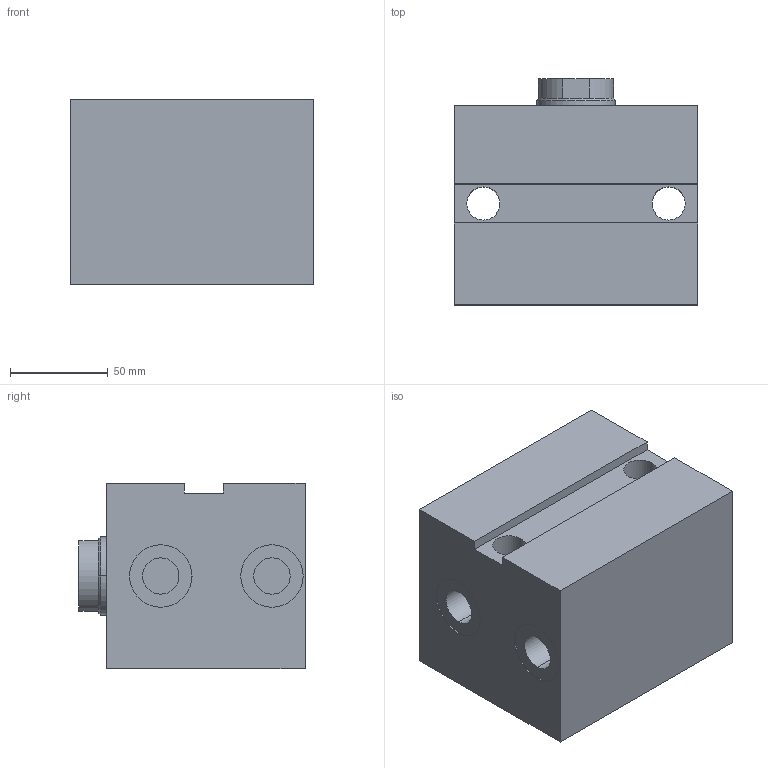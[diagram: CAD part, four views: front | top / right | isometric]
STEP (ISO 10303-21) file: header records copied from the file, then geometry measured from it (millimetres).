
FILE_DESCRIPTION (( 'STEP AP203' ), '1' );
FILE_NAME ('GERMA_Blockzylinder_602-063-030.STEP', '2015-07-16T13:01:35', ( '' ), ( '' ), 'SwSTEP 2.0', 'SolidWorks 2015', '' );
FILE_SCHEMA (( 'CONFIG_CONTROL_DESIGN' ));
Length unit declared in the file: millimetre
Products named in the file (3): GERMA_Blockzylinder_602-063-030; GH-600-063_GH-602-063-030; Kolben 60x-063_Kolben DU.63-Hub30-IG
Assembly tree (2 placements, depth 2):
  GERMA_Blockzylinder_602-063-030
    GH-600-063_GH-602-063-030
    Kolben 60x-063_Kolben DU.63-Hub30-IG
Bounding box: 125 x 116 x 95 mm (x, y, z)
Volume: 1084736 mm3; surface area: 124532.2 mm2
Topology: 2 solids, 2 shells, 73 faces, 160 edges, 98 vertices
Faces by surface type: cylinder 33, plane 26, cone 14
Entity records: 2286 total; most frequent: DIRECTION 387, CARTESIAN_POINT 330, ORIENTED_EDGE 308, AXIS2_PLACEMENT_3D 155, EDGE_CURVE 154, VERTEX_POINT 98, EDGE_LOOP 90, VECTOR 77
